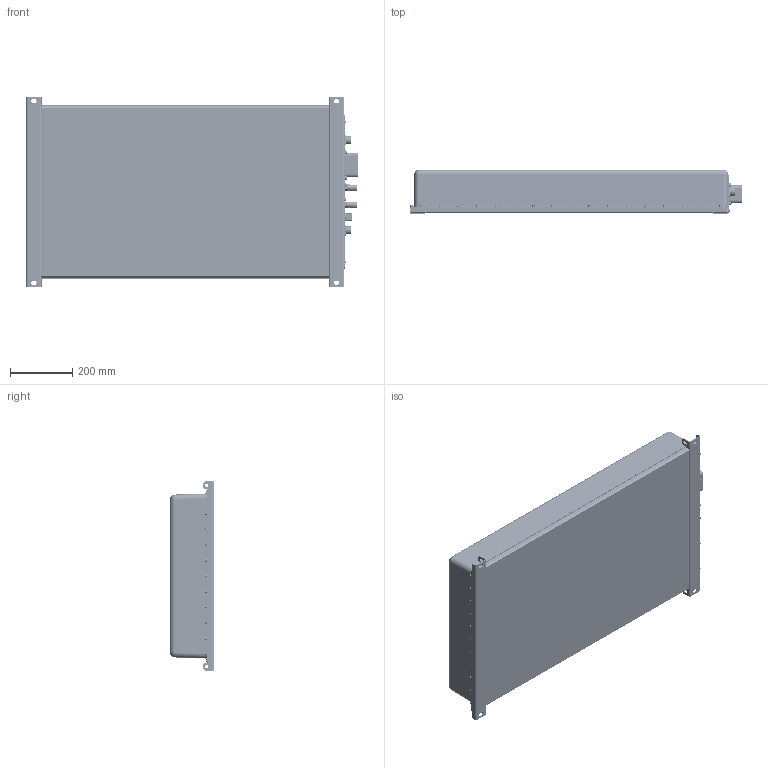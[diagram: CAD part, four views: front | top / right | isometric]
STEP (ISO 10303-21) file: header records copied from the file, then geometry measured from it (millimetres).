
FILE_DESCRIPTION (( 'STEP AP214' ), '1' );
FILE_NAME ('!ÐÃËÑ.563565.006 ËÈÀÁ Ñèãìà-S.STEP', '2026-08-24T13:18:34', ( '' ), ( '' ), 'SwSTEP 2.0', 'SolidWorks 2022', '' );
FILE_SCHEMA (( 'AUTOMOTIVE_DESIGN' ));
Length unit declared in the file: millimetre
Products named in the file (1): !РГЛС.563565.006 ЛИАБ Сигма-S
Bounding box: 1065.3 x 143 x 608 mm (x, y, z)
Volume: 75013557.5 mm3; surface area: 1831167.3 mm2
Topology: 217 solids, 217 shells, 4339 faces, 9960 edges, 6226 vertices
Faces by surface type: plane 1706, cylinder 1342, cone 653, torus 604, bspline 30, sphere 4
Entity records: 188539 total; most frequent: CARTESIAN_POINT 39949, DIRECTION 21346, ORIENTED_EDGE 19780, EDGE_CURVE 9890, AXIS2_PLACEMENT_3D 8545, VERTEX_POINT 6226, EDGE_LOOP 4932, UNCERTAINTY_MEASURE_WITH_UNIT 4558
